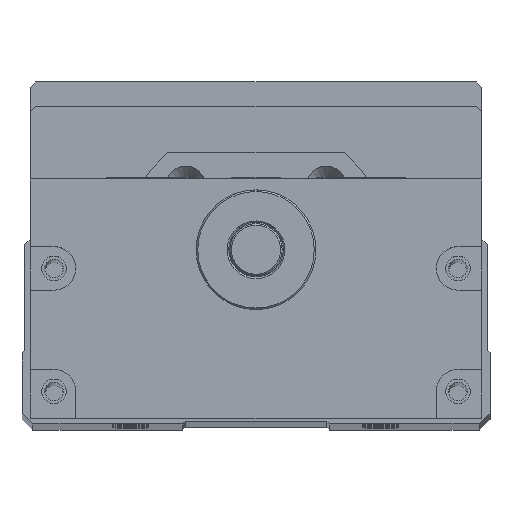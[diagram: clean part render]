
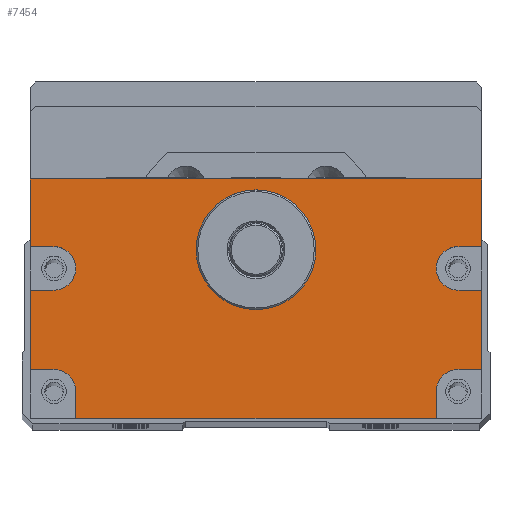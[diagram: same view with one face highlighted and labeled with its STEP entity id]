
A CAD part, top view. The second image highlights one B-rep face of the part: STEP entity #7454.
In plain terms, the highlighted planar face has unit normal (0, 0, 1).
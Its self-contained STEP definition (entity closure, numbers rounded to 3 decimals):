
#584=LINE('',#28980,#1325);
#586=LINE('',#28984,#1327);
#587=LINE('',#28987,#1328);
#588=LINE('',#28989,#1329);
#589=LINE('',#28993,#1330);
#590=LINE('',#28995,#1331);
#591=LINE('',#28996,#1332);
#592=LINE('',#28998,#1333);
#593=LINE('',#29002,#1334);
#594=LINE('',#29004,#1335);
#595=LINE('',#29006,#1336);
#596=LINE('',#29010,#1337);
#597=LINE('',#29012,#1338);
#598=LINE('',#29014,#1339);
#1325=VECTOR('',#17398,1.);
#1327=VECTOR('',#17402,1.);
#1328=VECTOR('',#17403,1.);
#1329=VECTOR('',#17404,1.);
#1330=VECTOR('',#17407,1.);
#1331=VECTOR('',#17408,1.);
#1332=VECTOR('',#17409,1.);
#1333=VECTOR('',#17410,1.);
#1334=VECTOR('',#17413,1.);
#1335=VECTOR('',#17414,1.);
#1336=VECTOR('',#17415,1.);
#1337=VECTOR('',#17418,1.);
#1338=VECTOR('',#17419,1.);
#1339=VECTOR('',#17420,1.);
#6920=FACE_BOUND('',#8943,.T.);
#6921=FACE_BOUND('',#8944,.T.);
#7454=ADVANCED_FACE('',(#6920,#6921),#7980,.T.);
#7980=PLANE('',#15822);
#8943=EDGE_LOOP('',(#10493,#10494,#10495,#10496,#10497,#10498,#10499,#10500,
#10501,#10502,#10503,#10504,#10505,#10506,#10507,#10508,#10509,#10510));
#8944=EDGE_LOOP('',(#10511));
#10493=ORIENTED_EDGE('',*,*,#14034,.F.);
#10494=ORIENTED_EDGE('',*,*,#14035,.T.);
#10495=ORIENTED_EDGE('',*,*,#14036,.F.);
#10496=ORIENTED_EDGE('',*,*,#14037,.F.);
#10497=ORIENTED_EDGE('',*,*,#14038,.F.);
#10498=ORIENTED_EDGE('',*,*,#14039,.T.);
#10499=ORIENTED_EDGE('',*,*,#14032,.T.);
#10500=ORIENTED_EDGE('',*,*,#14040,.T.);
#10501=ORIENTED_EDGE('',*,*,#14041,.F.);
#10502=ORIENTED_EDGE('',*,*,#14042,.F.);
#10503=ORIENTED_EDGE('',*,*,#14043,.F.);
#10504=ORIENTED_EDGE('',*,*,#14044,.T.);
#10505=ORIENTED_EDGE('',*,*,#14045,.F.);
#10506=ORIENTED_EDGE('',*,*,#14046,.F.);
#10507=ORIENTED_EDGE('',*,*,#14047,.F.);
#10508=ORIENTED_EDGE('',*,*,#14048,.T.);
#10509=ORIENTED_EDGE('',*,*,#14049,.F.);
#10510=ORIENTED_EDGE('',*,*,#14050,.F.);
#10511=ORIENTED_EDGE('',*,*,#14018,.T.);
#12836=VERTEX_POINT('',#28951);
#12849=VERTEX_POINT('',#28979);
#12850=VERTEX_POINT('',#28981);
#12851=VERTEX_POINT('',#28985);
#12852=VERTEX_POINT('',#28986);
#12853=VERTEX_POINT('',#28988);
#12854=VERTEX_POINT('',#28990);
#12855=VERTEX_POINT('',#28992);
#12856=VERTEX_POINT('',#28994);
#12857=VERTEX_POINT('',#28997);
#12858=VERTEX_POINT('',#28999);
#12859=VERTEX_POINT('',#29001);
#12860=VERTEX_POINT('',#29003);
#12861=VERTEX_POINT('',#29005);
#12862=VERTEX_POINT('',#29007);
#12863=VERTEX_POINT('',#29009);
#12864=VERTEX_POINT('',#29011);
#12865=VERTEX_POINT('',#29013);
#12866=VERTEX_POINT('',#29015);
#14018=EDGE_CURVE('',#12836,#12836,#15179,.T.);
#14032=EDGE_CURVE('',#12850,#12849,#584,.T.);
#14034=EDGE_CURVE('',#12851,#12852,#586,.T.);
#14035=EDGE_CURVE('',#12851,#12853,#587,.T.);
#14036=EDGE_CURVE('',#12854,#12853,#588,.T.);
#14037=EDGE_CURVE('',#12855,#12854,#15188,.T.);
#14038=EDGE_CURVE('',#12856,#12855,#589,.T.);
#14039=EDGE_CURVE('',#12856,#12850,#590,.T.);
#14040=EDGE_CURVE('',#12849,#12857,#591,.T.);
#14041=EDGE_CURVE('',#12858,#12857,#592,.T.);
#14042=EDGE_CURVE('',#12859,#12858,#15189,.T.);
#14043=EDGE_CURVE('',#12860,#12859,#593,.T.);
#14044=EDGE_CURVE('',#12860,#12861,#594,.T.);
#14045=EDGE_CURVE('',#12862,#12861,#595,.T.);
#14046=EDGE_CURVE('',#12863,#12862,#15190,.T.);
#14047=EDGE_CURVE('',#12864,#12863,#596,.T.);
#14048=EDGE_CURVE('',#12864,#12865,#597,.T.);
#14049=EDGE_CURVE('',#12866,#12865,#598,.T.);
#14050=EDGE_CURVE('',#12852,#12866,#15191,.T.);
#15179=CIRCLE('',#15806,11.);
#15188=CIRCLE('',#15818,4.);
#15189=CIRCLE('',#15819,4.);
#15190=CIRCLE('',#15820,4.);
#15191=CIRCLE('',#15821,4.);
#15806=AXIS2_PLACEMENT_3D('',#28950,#17371,#17372);
#15818=AXIS2_PLACEMENT_3D('',#28991,#17405,#17406);
#15819=AXIS2_PLACEMENT_3D('',#29000,#17411,#17412);
#15820=AXIS2_PLACEMENT_3D('',#29008,#17416,#17417);
#15821=AXIS2_PLACEMENT_3D('',#29016,#17421,#17422);
#15822=AXIS2_PLACEMENT_3D('',#29017,#17423,#17424);
#17371=DIRECTION('',(0.,0.,-1.));
#17372=DIRECTION('',(1.,0.,0.));
#17398=DIRECTION('',(-1.,0.,0.));
#17402=DIRECTION('',(-1.,0.,0.));
#17403=DIRECTION('',(0.,1.,0.));
#17404=DIRECTION('',(1.,0.,0.));
#17405=DIRECTION('',(0.,0.,1.));
#17406=DIRECTION('',(1.,0.,0.));
#17407=DIRECTION('',(-1.,0.,0.));
#17408=DIRECTION('',(0.,1.,0.));
#17409=DIRECTION('',(0.,-1.,0.));
#17410=DIRECTION('',(-1.,0.,0.));
#17411=DIRECTION('',(0.,0.,1.));
#17412=DIRECTION('',(1.,0.,0.));
#17413=DIRECTION('',(1.,0.,0.));
#17414=DIRECTION('',(0.,-1.,0.));
#17415=DIRECTION('',(-1.,0.,0.));
#17416=DIRECTION('',(0.,0.,1.));
#17417=DIRECTION('',(1.,0.,0.));
#17418=DIRECTION('',(0.,1.,0.));
#17419=DIRECTION('',(1.,0.,0.));
#17420=DIRECTION('',(0.,-1.,0.));
#17421=DIRECTION('',(0.,0.,1.));
#17422=DIRECTION('',(1.,0.,0.));
#17423=DIRECTION('',(0.,0.,1.));
#17424=DIRECTION('',(-1.,0.,0.));
#28950=CARTESIAN_POINT('',(300.,0.,482.5));
#28951=CARTESIAN_POINT('',(311.,0.,482.5));
#28979=CARTESIAN_POINT('',(258.5,13.,482.5));
#28980=CARTESIAN_POINT('',(341.5,13.,482.5));
#28981=CARTESIAN_POINT('',(341.5,13.,482.5));
#28984=CARTESIAN_POINT('',(341.5,-22.,482.5));
#28985=CARTESIAN_POINT('',(341.5,-22.,482.5));
#28986=CARTESIAN_POINT('',(337.115,-22.,482.5));
#28987=CARTESIAN_POINT('',(341.5,-31.,482.5));
#28988=CARTESIAN_POINT('',(341.5,-7.431,482.5));
#28989=CARTESIAN_POINT('',(341.5,-7.431,482.5));
#28990=CARTESIAN_POINT('',(337.115,-7.431,482.5));
#28991=CARTESIAN_POINT('',(337.115,-3.431,482.5));
#28992=CARTESIAN_POINT('',(337.115,0.569,482.5));
#28993=CARTESIAN_POINT('',(341.5,0.569,482.5));
#28994=CARTESIAN_POINT('',(341.5,0.569,482.5));
#28995=CARTESIAN_POINT('',(341.5,-31.,482.5));
#28996=CARTESIAN_POINT('',(258.5,27.5,482.5));
#28997=CARTESIAN_POINT('',(258.5,0.569,482.5));
#28998=CARTESIAN_POINT('',(341.5,0.569,482.5));
#28999=CARTESIAN_POINT('',(262.885,0.569,482.5));
#29000=CARTESIAN_POINT('',(262.885,-3.431,482.5));
#29001=CARTESIAN_POINT('',(262.885,-7.431,482.5));
#29002=CARTESIAN_POINT('',(341.5,-7.431,482.5));
#29003=CARTESIAN_POINT('',(258.5,-7.431,482.5));
#29004=CARTESIAN_POINT('',(258.5,27.5,482.5));
#29005=CARTESIAN_POINT('',(258.5,-22.,482.5));
#29006=CARTESIAN_POINT('',(341.5,-22.,482.5));
#29007=CARTESIAN_POINT('',(262.885,-22.,482.5));
#29008=CARTESIAN_POINT('',(262.885,-26.,482.5));
#29009=CARTESIAN_POINT('',(266.885,-26.,482.5));
#29010=CARTESIAN_POINT('',(266.885,-31.,482.5));
#29011=CARTESIAN_POINT('',(266.885,-31.,482.5));
#29012=CARTESIAN_POINT('',(258.5,-31.,482.5));
#29013=CARTESIAN_POINT('',(333.115,-31.,482.5));
#29014=CARTESIAN_POINT('',(333.115,-31.,482.5));
#29015=CARTESIAN_POINT('',(333.115,-26.,482.5));
#29016=CARTESIAN_POINT('',(337.115,-26.,482.5));
#29017=CARTESIAN_POINT('',(341.5,-31.,482.5));
